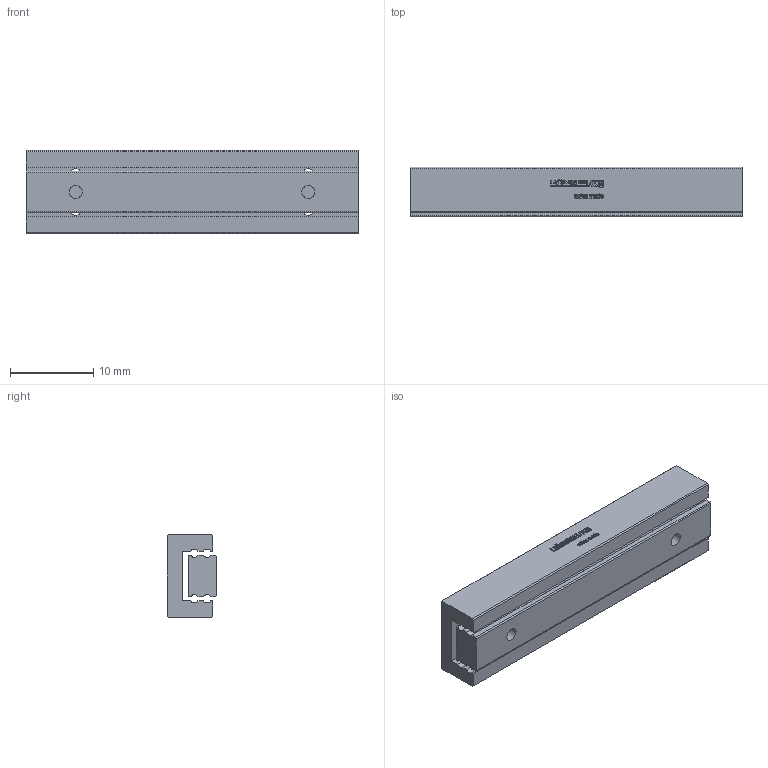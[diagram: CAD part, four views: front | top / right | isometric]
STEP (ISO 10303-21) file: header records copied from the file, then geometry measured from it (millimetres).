
FILE_DESCRIPTION(/* description */ ('STEP AP214'),/* implementation_level */ '2;1');
FILE_NAME(/* name */ 'MSK 5-40.35(0)',/* time_stamp */ '2025-04-16T16:52:20+02:00',/* author */ ('License CC BY-ND 4.0'),/* organization */ ('CADENAS'),/* preprocessor_version */ 'ST-DEVELOPER v19.3',/* originating_system */ 'PARTsolutions',/* authorisation */ ' ');
FILE_SCHEMA (('AUTOMOTIVE_DESIGN {1 0 10303 214 3 1 1}'));
Length unit declared in the file: millimetre
Products named in the file (3): MSK 5-40.35(0); MSK 5-40.35_1; MSK 5-40.35_2
Assembly tree (2 placements, depth 2):
  MSK 5-40.35(0)
    MSK 5-40.35_1
    MSK 5-40.35_2
Bounding box: 40 x 6 x 10 mm (x, y, z)
Volume: 1912 mm3; surface area: 2398.3 mm2
Topology: 2 solids, 2 shells, 513 faces, 1442 edges, 960 vertices
Faces by surface type: cylinder 306, plane 203, cone 4
Full cylindrical faces by diameter (mm): 1.567 x6
Entity records: 16849 total; most frequent: DIRECTION 3080, CARTESIAN_POINT 2908, ORIENTED_EDGE 2864, EDGE_CURVE 1432, AXIS2_PLACEMENT_3D 1132, VERTEX_POINT 960, LINE 816, VECTOR 816
